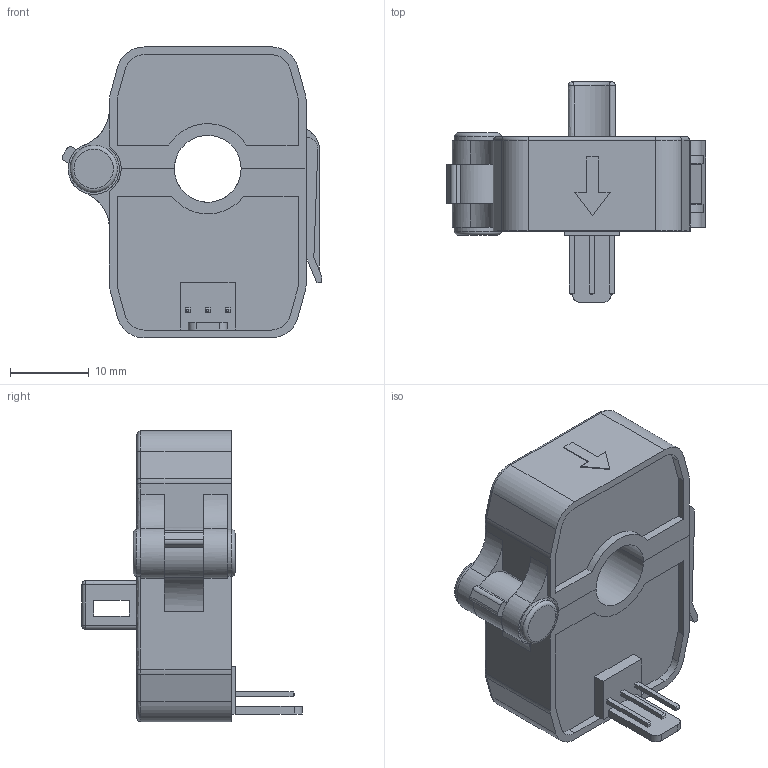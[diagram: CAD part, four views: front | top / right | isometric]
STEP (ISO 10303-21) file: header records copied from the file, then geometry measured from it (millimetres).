
FILE_DESCRIPTION( ('This file contains a STEP AP42 implementation' ,'as created by ZW3D STEP Interface translator.') ,'2;1' );
FILE_NAME( 'EKE-3D俋倰.stp' ,'22 4 6. 9 430', (''), ('ZWCAD Software Co.'), 'Version 1.0', 'ZW3D to STEP translator', '' );
FILE_SCHEMA( ('CONFIG_CONTROL_DESIGN') );
Length unit declared in the file: millimetre
Products named in the file (1): 0
Bounding box: 33 x 28 x 37.1 mm (x, y, z)
Volume: 4934.7 mm3; surface area: 8822.6 mm2
Topology: 10 solids, 12 shells, 403 faces, 1038 edges, 683 vertices
Faces by surface type: bspline 403
Entity records: 13969 total; most frequent: CARTESIAN_POINT 7233, ORIENTED_EDGE 2088, EDGE_CURVE 1038, B_SPLINE_CURVE_WITH_KNOTS 868, VERTEX_POINT 671, EDGE_LOOP 433, FACE_OUTER_BOUND 403, ADVANCED_FACE 403
